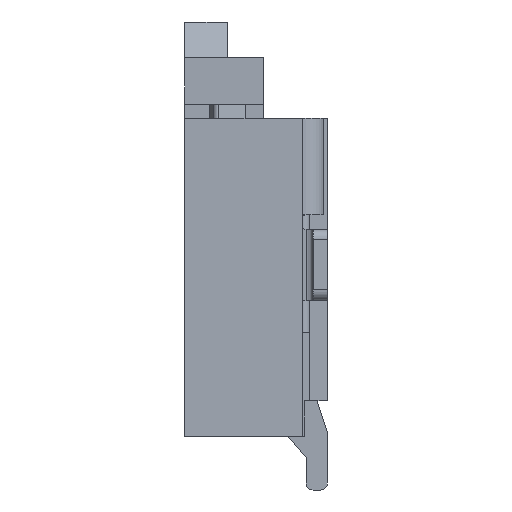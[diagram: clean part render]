
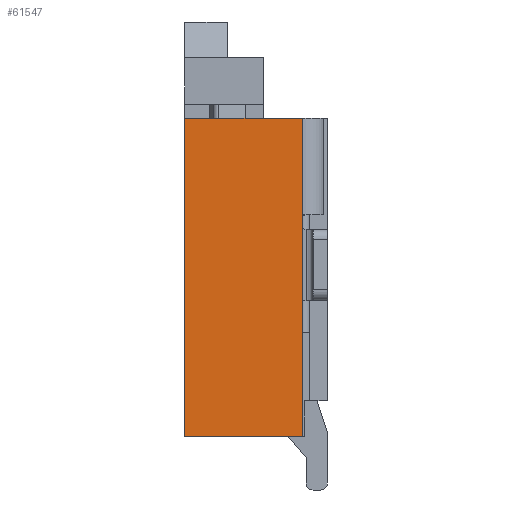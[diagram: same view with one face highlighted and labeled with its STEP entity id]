
A CAD part, left-side view. The second image highlights one B-rep face of the part: STEP entity #61547.
In plain terms, the highlighted planar face has unit normal (-1, 0, 0).
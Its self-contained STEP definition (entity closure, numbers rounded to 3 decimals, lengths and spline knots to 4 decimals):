
#7346=DIRECTION('',(0.,0.,1.));
#7347=VECTOR('',#7346,4.45);
#7348=CARTESIAN_POINT('',(-25.35,0.35,-4.45));
#7349=LINE('',#7348,#7347);
#7350=DIRECTION('',(0.,-1.,0.));
#7351=VECTOR('',#7350,1.65);
#7352=CARTESIAN_POINT('',(-25.35,2.,-4.45));
#7353=LINE('',#7352,#7351);
#7354=DIRECTION('',(0.,0.,-1.));
#7355=VECTOR('',#7354,4.45);
#7356=CARTESIAN_POINT('',(-25.35,2.,0.));
#7357=LINE('',#7356,#7355);
#7358=DIRECTION('',(0.,1.,0.));
#7359=VECTOR('',#7358,1.65);
#7360=CARTESIAN_POINT('',(-25.35,0.35,0.));
#7361=LINE('',#7360,#7359);
#47560=CARTESIAN_POINT('',(-25.35,0.35,-4.45));
#47561=VERTEX_POINT('',#47560);
#47562=CARTESIAN_POINT('',(-25.35,2.,-4.45));
#47563=VERTEX_POINT('',#47562);
#51735=CARTESIAN_POINT('',(-25.35,2.,0.));
#51736=VERTEX_POINT('',#51735);
#51741=CARTESIAN_POINT('',(-25.35,0.35,0.));
#51742=VERTEX_POINT('',#51741);
#61534=CARTESIAN_POINT('',(-25.35,1.175,-2.225));
#61535=DIRECTION('',(1.,0.,0.));
#61536=DIRECTION('',(0.,0.,-1.));
#61537=AXIS2_PLACEMENT_3D('',#61534,#61535,#61536);
#61538=PLANE('',#61537);
#61539=ORIENTED_EDGE('',*,*,#61525,.F.);
#61540=ORIENTED_EDGE('',*,*,#61221,.F.);
#61542=ORIENTED_EDGE('',*,*,#61541,.F.);
#61544=ORIENTED_EDGE('',*,*,#61543,.F.);
#61545=EDGE_LOOP('',(#61539,#61540,#61542,#61544));
#61546=FACE_OUTER_BOUND('',#61545,.F.);
#61221=EDGE_CURVE('',#47563,#47561,#7353,.T.);
#61525=EDGE_CURVE('',#47561,#51742,#7349,.T.);
#61541=EDGE_CURVE('',#51736,#47563,#7357,.T.);
#61543=EDGE_CURVE('',#51742,#51736,#7361,.T.);
#61547=ADVANCED_FACE('',(#61546),#61538,.F.);
